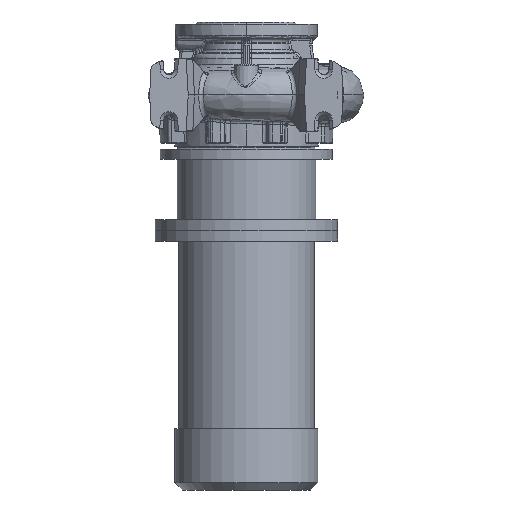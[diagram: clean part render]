
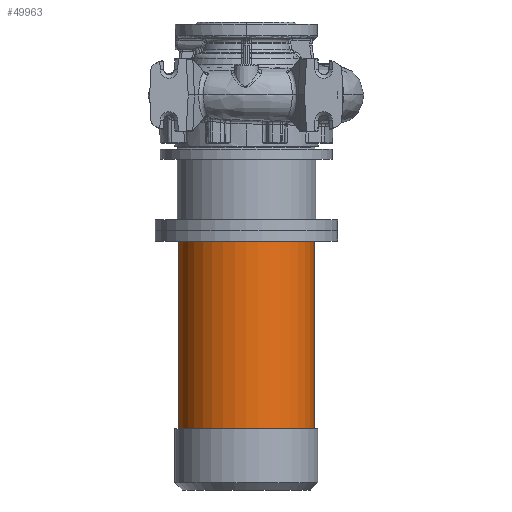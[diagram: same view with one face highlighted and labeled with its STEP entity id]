
A CAD part, front view. The second image highlights one B-rep face of the part: STEP entity #49963.
In plain terms, the highlighted cylindrical face has radius 93 mm (diameter 186 mm), a partial arc.
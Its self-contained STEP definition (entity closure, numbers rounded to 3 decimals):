
#1713 = CYLINDRICAL_SURFACE ( 'NONE', #4855, 93. ) ;
#1819 = VERTEX_POINT ( 'NONE', #6914 ) ;
#4855 = AXIS2_PLACEMENT_3D ( 'NONE', #25756, #45142, #59132 ) ;
#6498 = CARTESIAN_POINT ( 'NONE',  ( 93., 0., -200.3 ) ) ;
#6914 = CARTESIAN_POINT ( 'NONE',  ( 93., 0., -457.3 ) ) ;
#9163 = AXIS2_PLACEMENT_3D ( 'NONE', #27693, #27278, #37048 ) ;
#11180 = DIRECTION ( 'NONE',  ( 0., 0., -1. ) ) ;
#11477 = FACE_OUTER_BOUND ( 'NONE', #29564, .T. ) ;
#13140 = VECTOR ( 'NONE', #13335, 1000. ) ;
#13335 = DIRECTION ( 'NONE',  ( 0., 0., -1. ) ) ;
#13847 = ORIENTED_EDGE ( 'NONE', *, *, #22943, .F. ) ;
#19725 = AXIS2_PLACEMENT_3D ( 'NONE', #45033, #11180, #20831 ) ;
#20831 = DIRECTION ( 'NONE',  ( -1., 0., 0. ) ) ;
#21575 = ORIENTED_EDGE ( 'NONE', *, *, #26245, .F. ) ;
#22051 = VERTEX_POINT ( 'NONE', #31413 ) ;
#22231 = VECTOR ( 'NONE', #55476, 1000. ) ;
#22943 = EDGE_CURVE ( 'NONE', #1819, #28184, #53359, .T. ) ;
#25756 = CARTESIAN_POINT ( 'NONE',  ( 0., 0., -541.3 ) ) ;
#26245 = EDGE_CURVE ( 'NONE', #47567, #1819, #47612, .T. ) ;
#27278 = DIRECTION ( 'NONE',  ( 0., 0., -1. ) ) ;
#27693 = CARTESIAN_POINT ( 'NONE',  ( 0., 0., -457.3 ) ) ;
#28184 = VERTEX_POINT ( 'NONE', #49540 ) ;
#28802 = EDGE_CURVE ( 'NONE', #22051, #28184, #35542, .T. ) ;
#29564 = EDGE_LOOP ( 'NONE', ( #21575, #39568, #60966, #13847 ) ) ;
#31413 = CARTESIAN_POINT ( 'NONE',  ( -93., 0., -200.3 ) ) ;
#34449 = CIRCLE ( 'NONE', #19725, 93. ) ;
#35542 = LINE ( 'NONE', #37777, #13140 ) ;
#37048 = DIRECTION ( 'NONE',  ( -1., 0., 0. ) ) ;
#37427 = EDGE_CURVE ( 'NONE', #47567, #22051, #34449, .T. ) ;
#37777 = CARTESIAN_POINT ( 'NONE',  ( -93., 0., -541.3 ) ) ;
#39568 = ORIENTED_EDGE ( 'NONE', *, *, #37427, .T. ) ;
#45033 = CARTESIAN_POINT ( 'NONE',  ( 0., 0., -200.3 ) ) ;
#45142 = DIRECTION ( 'NONE',  ( 0., 0., -1. ) ) ;
#47567 = VERTEX_POINT ( 'NONE', #6498 ) ;
#47612 = LINE ( 'NONE', #50044, #22231 ) ;
#49540 = CARTESIAN_POINT ( 'NONE',  ( -93., 0., -457.3 ) ) ;
#49963 = ADVANCED_FACE ( 'NONE', ( #11477 ), #1713, .T. ) ;
#50044 = CARTESIAN_POINT ( 'NONE',  ( 93., 0., -541.3 ) ) ;
#53359 = CIRCLE ( 'NONE', #9163, 93. ) ;
#55476 = DIRECTION ( 'NONE',  ( 0., 0., -1. ) ) ;
#59132 = DIRECTION ( 'NONE',  ( -1., 0., 0. ) ) ;
#60966 = ORIENTED_EDGE ( 'NONE', *, *, #28802, .T. ) ;
